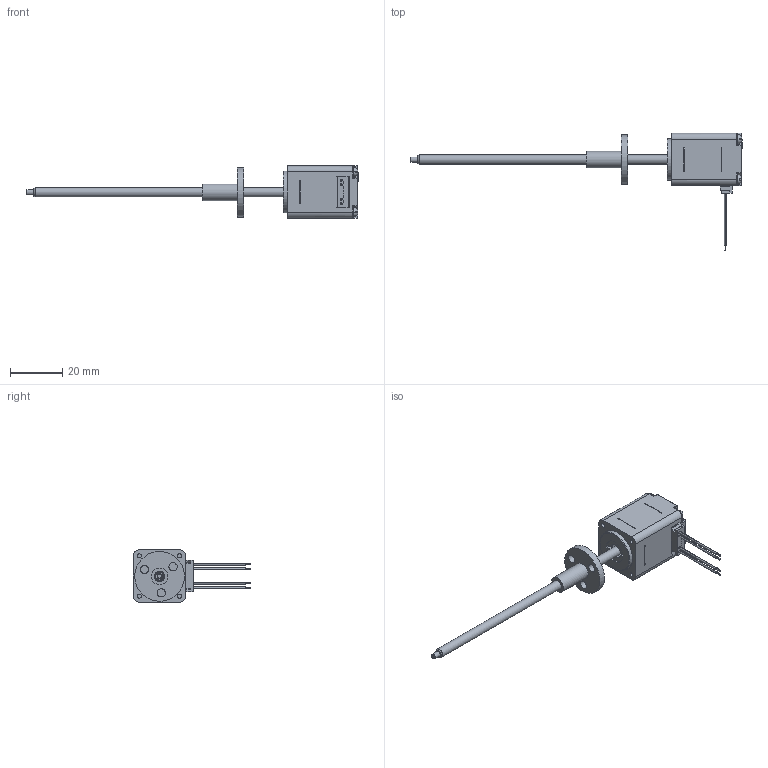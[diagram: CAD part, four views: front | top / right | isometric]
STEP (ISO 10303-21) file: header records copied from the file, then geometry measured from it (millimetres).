
FILE_DESCRIPTION( ('This file contains a STEP AP42 implementation' ,'as created by ZW3D STEP Interface translator.' ,'') ,'2;1' );
FILE_NAME( '21EA4X-XX-XXX.stp' ,'251231.143330', (''), ('ZWCAD Software Co.'), 'Version 1.0', 'ZW3D to STEP translator', '' );
FILE_SCHEMA(('AUTOMOTIVE_DESIGN { 1 0 10303 214 1 1 1 1 }'));
Length unit declared in the file: millimetre
Products named in the file (1): 0
Bounding box: 127.2 x 45 x 20 mm (x, y, z)
Volume: 1912.5 mm3; surface area: 9378.3 mm2
Topology: 1 solids, 2 shells, 598 faces, 1691 edges, 1073 vertices
Faces by surface type: plane 380, cylinder 140, bspline 54, cone 8, torus 8, sphere 8
Full cylindrical faces by diameter (mm): 0.67 x8, 1.6 x4, 2 x1, 2.2 x4, 3.18 x3, 3.56 x2, 4.06 x2, 5.5 x2, 6.35 x1, 9 x1, 12.24 x2, 16 x1, 16.6 x1, 19.05 x1
Entity records: 24112 total; most frequent: CARTESIAN_POINT 7773, ORIENTED_EDGE 3380, DIRECTION 3187, EDGE_CURVE 1690, AXIS2_PLACEMENT_3D 1075, VERTEX_POINT 1073, VECTOR 1037, LINE 1037
